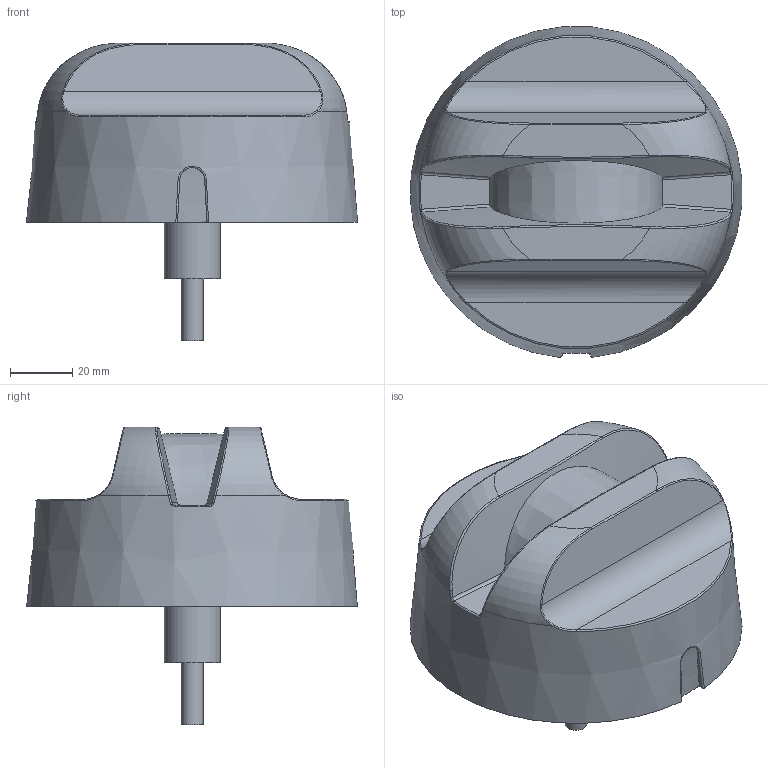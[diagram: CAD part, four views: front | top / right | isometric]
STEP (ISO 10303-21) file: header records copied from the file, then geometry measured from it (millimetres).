
FILE_DESCRIPTION(/* description */ ('Unknown'),/* implementation_level */ '2;1');
FILE_NAME(/* name */ 'Agame Rear',/* time_stamp */ '2024-05-24T12:00:55+02:00',/* author */ ('Unknown'),/* organization */ ('Unknown'),/* preprocessor_version */ 'ST-DEVELOPER v19.4',/* originating_system */ 'Solid Edge',/* authorisation */ 'Unknown');
FILE_SCHEMA (('AUTOMOTIVE_DESIGN {1 0 10303 214 3 1 1}'));
Length unit declared in the file: millimetre
Products named in the file (1): Agame Rear
Bounding box: 106.25 x 106.11 x 95.5 mm (x, y, z)
Volume: 371635.9 mm3; surface area: 35335 mm2
Topology: 1 solids, 1 shells, 85 faces, 204 edges, 121 vertices
Faces by surface type: cylinder 29, bspline 22, plane 18, torus 13, sphere 2, cone 1
Full cylindrical faces by diameter (mm): 7 x1, 18 x1, 102.418 x1
Entity records: 5085 total; most frequent: CARTESIAN_POINT 2787, ORIENTED_EDGE 388, DIRECTION 286, EDGE_CURVE 194, AXIS2_PLACEMENT_3D 130, VERTEX_POINT 119, B_SPLINE_CURVE_WITH_KNOTS 102, EDGE_LOOP 93
